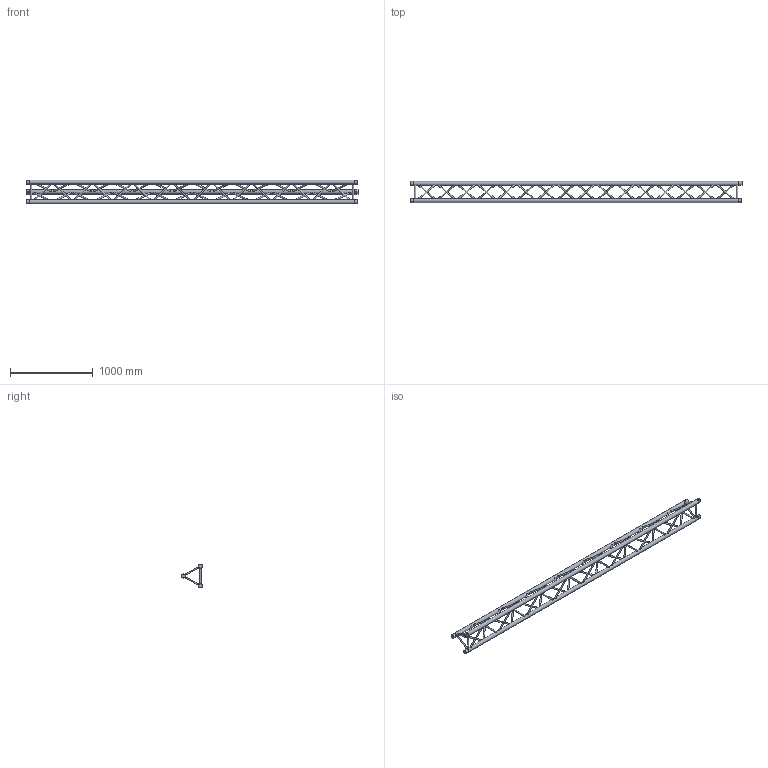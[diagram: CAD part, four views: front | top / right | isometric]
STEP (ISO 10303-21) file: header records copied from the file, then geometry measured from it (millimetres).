
FILE_DESCRIPTION(/* description */ (''),/* implementation_level */ '2;1');
FILE_NAME(/* name */ 'M:\Symbolen\STP\30-er truss\111050030.stp',/* time_stamp */ '2014-12-03T13:35:51+01:00',/* author */ ('Stephan'),/* organization */ (''),/* preprocessor_version */ 'ST-DEVELOPER v15.6',/* originating_system */ 'Autodesk Inventor 2015',/* authorisation */ '');
FILE_SCHEMA (('AUTOMOTIVE_DESIGN { 1 0 10303 214 3 1 1 }'));
Length unit declared in the file: millimetre
Products named in the file (1): 160023782
Bounding box: 4000 x 255.28 x 287.3 mm (x, y, z)
Volume: 24335282.8 mm3; surface area: 2580229.3 mm2
Topology: 51 solids, 57 shells, 207 faces, 309 edges, 216 vertices
Faces by surface type: plane 132, cylinder 69, cone 6
Full cylindrical faces by diameter (mm): 10 x6, 16 x54, 48.3 x9
Entity records: 4812 total; most frequent: CARTESIAN_POINT 976, DIRECTION 716, ORIENTED_EDGE 384, AXIS2_PLACEMENT_3D 352, EDGE_LOOP 312, STYLED_ITEM 256, FACE_OUTER_BOUND 207, ADVANCED_FACE 207
